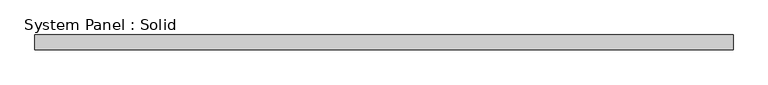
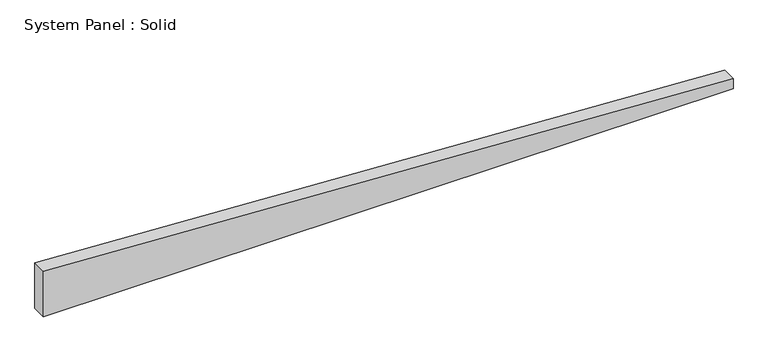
"""IFC4 building model written with IfcOpenShell, lengths in millimetres: plate geometry, System Panel : Solid."""

from ifc_helpers import new_model, si_unit, frame, origin, place, context, project, spatial, polyline, outline, extrude, source, transform, mapped, element, save


def system_panel_solid_6933b906(model_context):
    return source(origin(), model_context, "Body", "SweptSolid", [
        extrude(outline(polyline([(0.0, -1476.375), (0.0, 1476.375), (45.7930362, 1476.375), (206.0110414, -1476.375), (0.0, -1476.375)])), frame((0.0, -19.05, 0.0), z_axis=(0.0, 1.0, 0.0), x_axis=(0.0, 0.0, 1.0)), (0.0, 0.0, 1.0), 63.5),
    ])


if __name__ == "__main__":
    model = new_model("IFC4")
    model_context = context("Model", 3, world=origin())
    ifc_project = project(units=[si_unit("LENGTHUNIT", "METRE", prefix="MILLI")], contexts=[model_context])
    site = spatial("IfcSite", under=ifc_project)
    building = spatial("IfcBuilding", under=site)
    placement = place(None, origin())
    system_panel_solid_shape = system_panel_solid_6933b906(model_context)
    element("IfcPlate", 1, ObjectType="System Panel : Solid", at=placement, inside=building, context=model_context, shape_type="MappedRepresentation", body=[
        mapped(system_panel_solid_shape, transform((0.0, 0.0, 0.0), x_axis=(1.0, 0.0, 0.0), y_axis=(0.0, 1.0, 0.0), z_axis=(0.0, 0.0, 1.0))),
    ])
    save(model, "model.ifc")
